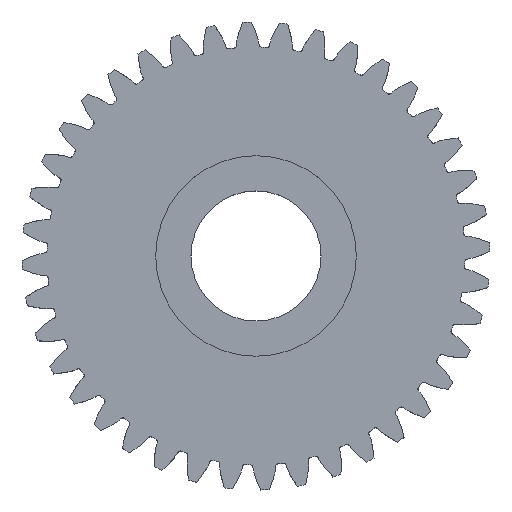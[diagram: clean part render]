
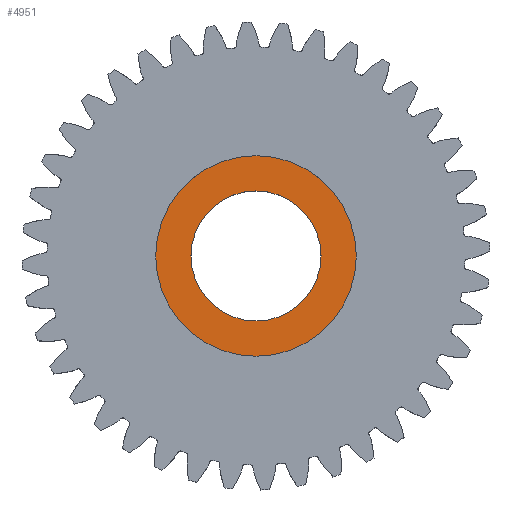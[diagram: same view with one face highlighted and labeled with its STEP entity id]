
A CAD part, top view. The second image highlights one B-rep face of the part: STEP entity #4951.
In plain terms, the highlighted planar face has unit normal (0, 0, 1).
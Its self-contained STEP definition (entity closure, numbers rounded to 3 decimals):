
#2760 = EDGE_CURVE ( 'NONE', #2818, #2817, #13703, .T. ) ;
#2809 = EDGE_CURVE ( 'NONE', #2817, #2818, #13903, .T. ) ;
#2817 = VERTEX_POINT ( 'NONE', #13969 ) ;
#2818 = VERTEX_POINT ( 'NONE', #13968 ) ;
#3134 = EDGE_CURVE ( 'NONE', #3135, #3136, #14985, .T. ) ;
#3135 = VERTEX_POINT ( 'NONE', #14980 ) ;
#3136 = VERTEX_POINT ( 'NONE', #14979 ) ;
#4951 = ADVANCED_FACE ( 'NONE', ( #15470, #15469 ), #15497, .T. ) ;
#4952 = EDGE_LOOP ( 'NONE', ( #4953, #5002 ) ) ;
#4953 = ORIENTED_EDGE ( 'NONE', *, *, #4954, .T. ) ;
#4954 = EDGE_CURVE ( 'NONE', #3136, #3135, #15531, .T. ) ;
#5002 = ORIENTED_EDGE ( 'NONE', *, *, #3134, .T. ) ;
#5003 = EDGE_LOOP ( 'NONE', ( #5004, #5005 ) ) ;
#5004 = ORIENTED_EDGE ( 'NONE', *, *, #2760, .T. ) ;
#5005 = ORIENTED_EDGE ( 'NONE', *, *, #2809, .T. ) ;
#13696 = DIRECTION ( 'NONE',  ( 1., 0., 0. ) ) ;
#13698 = DIRECTION ( 'NONE',  ( 0., 0., -1. ) ) ;
#13699 = CARTESIAN_POINT ( 'NONE',  ( 0., 0., 7. ) ) ;
#13701 = AXIS2_PLACEMENT_3D ( 'NONE', #13699, #13698, #13696 ) ;
#13703 = CIRCLE ( 'NONE', #13701, 17.5 ) ;
#13896 = DIRECTION ( 'NONE',  ( 1., 0., 0. ) ) ;
#13898 = DIRECTION ( 'NONE',  ( 0., 0., -1. ) ) ;
#13900 = CARTESIAN_POINT ( 'NONE',  ( 0., 0., 7. ) ) ;
#13901 = AXIS2_PLACEMENT_3D ( 'NONE', #13900, #13898, #13896 ) ;
#13903 = CIRCLE ( 'NONE', #13901, 17.5 ) ;
#13968 = CARTESIAN_POINT ( 'NONE',  ( -17.5, 0., 7. ) ) ;
#13969 = CARTESIAN_POINT ( 'NONE',  ( 17.5, 0., 7. ) ) ;
#14979 = CARTESIAN_POINT ( 'NONE',  ( 27., 0., 7. ) ) ;
#14980 = CARTESIAN_POINT ( 'NONE',  ( -27., 0., 7. ) ) ;
#14981 = DIRECTION ( 'NONE',  ( 1., 0., 0. ) ) ;
#14982 = DIRECTION ( 'NONE',  ( 0., 0., 1. ) ) ;
#14983 = CARTESIAN_POINT ( 'NONE',  ( 0., 0., 7. ) ) ;
#14984 = AXIS2_PLACEMENT_3D ( 'NONE', #14983, #14982, #14981 ) ;
#14985 = CIRCLE ( 'NONE', #14984, 27. ) ;
#15469 = FACE_BOUND ( 'NONE', #5003, .T. ) ;
#15470 = FACE_OUTER_BOUND ( 'NONE', #4952, .T. ) ;
#15497 = PLANE ( 'NONE',  #15535 ) ;
#15527 = DIRECTION ( 'NONE',  ( 1., 0., 0. ) ) ;
#15528 = DIRECTION ( 'NONE',  ( 0., 0., 1. ) ) ;
#15529 = CARTESIAN_POINT ( 'NONE',  ( 0., 0., 7. ) ) ;
#15530 = AXIS2_PLACEMENT_3D ( 'NONE', #15529, #15528, #15527 ) ;
#15531 = CIRCLE ( 'NONE', #15530, 27. ) ;
#15532 = DIRECTION ( 'NONE',  ( 1., 0., 0. ) ) ;
#15533 = DIRECTION ( 'NONE',  ( 0., 0., 1. ) ) ;
#15534 = CARTESIAN_POINT ( 'NONE',  ( 0., 0., 7. ) ) ;
#15535 = AXIS2_PLACEMENT_3D ( 'NONE', #15534, #15533, #15532 ) ;
